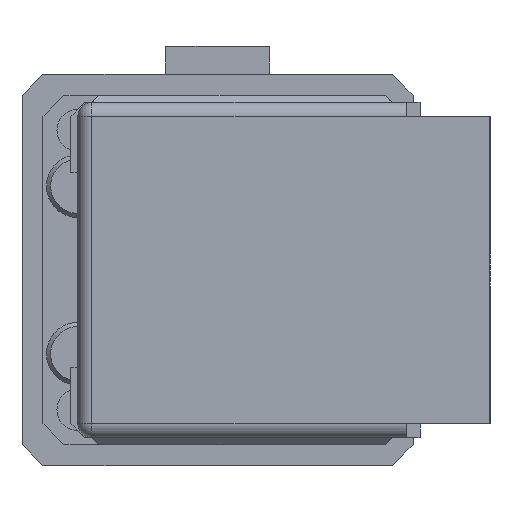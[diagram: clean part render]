
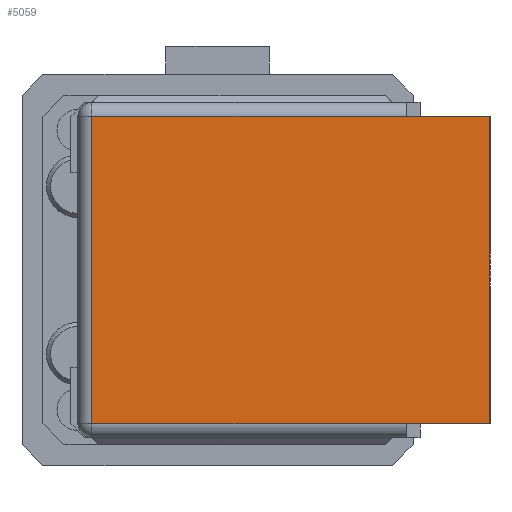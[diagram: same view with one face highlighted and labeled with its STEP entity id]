
A CAD part, left-side view. The second image highlights one B-rep face of the part: STEP entity #5059.
In plain terms, the highlighted planar face has unit normal (-1, 0, 0).
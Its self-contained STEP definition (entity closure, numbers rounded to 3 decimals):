
#2 = DIRECTION ( 'NONE',  ( 1., 0., 0. ) ) ;
#23 = PLANE ( 'NONE',  #6628 ) ;
#214 = DIRECTION ( 'NONE',  ( 0., 0., -1. ) ) ;
#268 = EDGE_CURVE ( 'NONE', #4790, #4238, #672, .T. ) ;
#275 = CARTESIAN_POINT ( 'NONE',  ( 0., 28.5, 11. ) ) ;
#285 = FACE_OUTER_BOUND ( 'NONE', #3456, .T. ) ;
#370 = CARTESIAN_POINT ( 'NONE',  ( 0., 6., 11. ) ) ;
#446 = VECTOR ( 'NONE', #1143, 1000. ) ;
#449 = CARTESIAN_POINT ( 'NONE',  ( 0., 6., -11. ) ) ;
#450 = ORIENTED_EDGE ( 'NONE', *, *, #4976, .T. ) ;
#496 = DIRECTION ( 'NONE',  ( 0., -1., 0. ) ) ;
#672 = LINE ( 'NONE', #2991, #2223 ) ;
#847 = VERTEX_POINT ( 'NONE', #1997 ) ;
#872 = CARTESIAN_POINT ( 'NONE',  ( 0., 6., -11. ) ) ;
#963 = LINE ( 'NONE', #449, #6553 ) ;
#990 = EDGE_CURVE ( 'NONE', #7201, #847, #5051, .T. ) ;
#1071 = CARTESIAN_POINT ( 'NONE',  ( 0., 0., -11. ) ) ;
#1143 = DIRECTION ( 'NONE',  ( 0., -1., 0. ) ) ;
#1664 = ORIENTED_EDGE ( 'NONE', *, *, #1741, .F. ) ;
#1741 = EDGE_CURVE ( 'NONE', #4247, #4238, #5352, .T. ) ;
#1857 = CARTESIAN_POINT ( 'NONE',  ( 0., 6., 11. ) ) ;
#1997 = CARTESIAN_POINT ( 'NONE',  ( 0., 6., -11. ) ) ;
#2123 = DIRECTION ( 'NONE',  ( 0., 1., 0. ) ) ;
#2223 = VECTOR ( 'NONE', #3459, 1000. ) ;
#2233 = VECTOR ( 'NONE', #2123, 1000. ) ;
#2381 = ORIENTED_EDGE ( 'NONE', *, *, #268, .T. ) ;
#2991 = CARTESIAN_POINT ( 'NONE',  ( 0., 0., 11. ) ) ;
#3094 = ORIENTED_EDGE ( 'NONE', *, *, #3523, .T. ) ;
#3456 = EDGE_LOOP ( 'NONE', ( #3094, #3790, #7229, #2381, #1664, #450 ) ) ;
#3459 = DIRECTION ( 'NONE',  ( 0., 0., 1. ) ) ;
#3523 = EDGE_CURVE ( 'NONE', #3553, #7201, #6028, .T. ) ;
#3553 = VERTEX_POINT ( 'NONE', #7185 ) ;
#3790 = ORIENTED_EDGE ( 'NONE', *, *, #990, .T. ) ;
#3887 = LINE ( 'NONE', #1857, #2233 ) ;
#3974 = VECTOR ( 'NONE', #5165, 1000. ) ;
#4238 = VERTEX_POINT ( 'NONE', #4992 ) ;
#4247 = VERTEX_POINT ( 'NONE', #4456 ) ;
#4456 = CARTESIAN_POINT ( 'NONE',  ( 0., 6., 11. ) ) ;
#4471 = VECTOR ( 'NONE', #214, 1000. ) ;
#4790 = VERTEX_POINT ( 'NONE', #1071 ) ;
#4820 = EDGE_CURVE ( 'NONE', #847, #4790, #963, .T. ) ;
#4976 = EDGE_CURVE ( 'NONE', #4247, #3553, #3887, .T. ) ;
#4992 = CARTESIAN_POINT ( 'NONE',  ( 0., 0., 11. ) ) ;
#5051 = LINE ( 'NONE', #872, #446 ) ;
#5059 = ADVANCED_FACE ( 'NONE', ( #285 ), #23, .F. ) ;
#5165 = DIRECTION ( 'NONE',  ( 0., -1., 0. ) ) ;
#5193 = CARTESIAN_POINT ( 'NONE',  ( 0., 6., 11. ) ) ;
#5352 = LINE ( 'NONE', #5193, #3974 ) ;
#5970 = CARTESIAN_POINT ( 'NONE',  ( 0., 28.5, -11. ) ) ;
#6028 = LINE ( 'NONE', #275, #4471 ) ;
#6553 = VECTOR ( 'NONE', #496, 1000. ) ;
#6628 = AXIS2_PLACEMENT_3D ( 'NONE', #370, #2, #7029 ) ;
#7029 = DIRECTION ( 'NONE',  ( 0., 0., -1. ) ) ;
#7185 = CARTESIAN_POINT ( 'NONE',  ( 0., 28.5, 11. ) ) ;
#7201 = VERTEX_POINT ( 'NONE', #5970 ) ;
#7229 = ORIENTED_EDGE ( 'NONE', *, *, #4820, .T. ) ;
